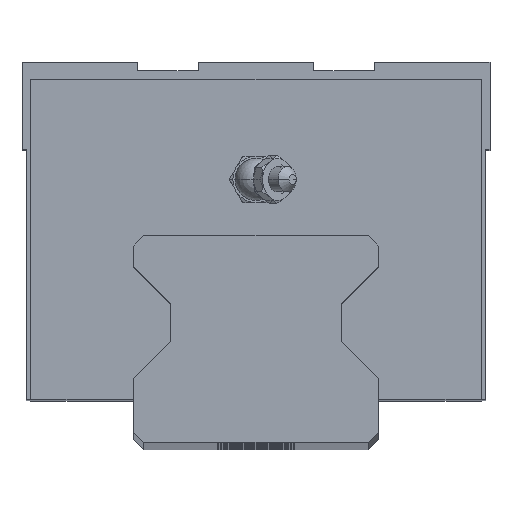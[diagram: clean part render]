
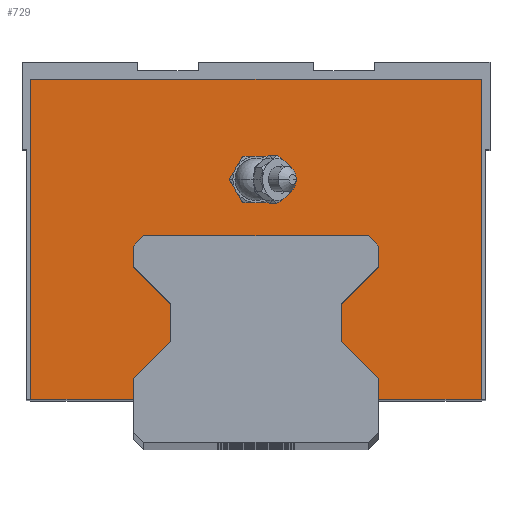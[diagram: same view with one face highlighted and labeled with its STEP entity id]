
A CAD part, top view. The second image highlights one B-rep face of the part: STEP entity #729.
In plain terms, the highlighted planar face has unit normal (0, 0, 1).
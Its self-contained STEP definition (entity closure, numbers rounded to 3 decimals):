
#729=ADVANCED_FACE('',(#1559,#1560),#1561,.T.);
#1559=FACE_BOUND('',#2491,.T.);
#1560=FACE_OUTER_BOUND('',#2492,.T.);
#1561=PLANE('',#2493);
#2491=EDGE_LOOP('',(#4496,#4497));
#2492=EDGE_LOOP('',(#4498,#4499,#4500,#4501,#4502,#4503,#4504,#4505,#4506,#4507,#4508,#4509,#4510,#4511,#4512,#4513,#4514,#4515));
#2493=AXIS2_PLACEMENT_3D('',#4516,#4517,#4518);
#4496=ORIENTED_EDGE('',*,*,#5387,.T.);
#4497=ORIENTED_EDGE('',*,*,#5870,.T.);
#4498=ORIENTED_EDGE('',*,*,#5858,.F.);
#4499=ORIENTED_EDGE('',*,*,#6022,.F.);
#4500=ORIENTED_EDGE('',*,*,#5913,.F.);
#4501=ORIENTED_EDGE('',*,*,#5688,.F.);
#4502=ORIENTED_EDGE('',*,*,#5891,.F.);
#4503=ORIENTED_EDGE('',*,*,#6121,.F.);
#4504=ORIENTED_EDGE('',*,*,#6002,.F.);
#4505=ORIENTED_EDGE('',*,*,#6122,.F.);
#4506=ORIENTED_EDGE('',*,*,#5614,.F.);
#4507=ORIENTED_EDGE('',*,*,#5318,.F.);
#4508=ORIENTED_EDGE('',*,*,#6123,.F.);
#4509=ORIENTED_EDGE('',*,*,#5665,.F.);
#4510=ORIENTED_EDGE('',*,*,#5658,.F.);
#4511=ORIENTED_EDGE('',*,*,#5367,.F.);
#4512=ORIENTED_EDGE('',*,*,#6124,.F.);
#4513=ORIENTED_EDGE('',*,*,#5906,.F.);
#4514=ORIENTED_EDGE('',*,*,#6125,.F.);
#4515=ORIENTED_EDGE('',*,*,#5608,.F.);
#4516=CARTESIAN_POINT('',(0.,38.278,-34.));
#4517=DIRECTION('',(0.,0.,1.0));
#4518=DIRECTION('',(1.0,0.0,0.));
#5318=EDGE_CURVE('',#6314,#6317,#6318,.T.);
#5367=EDGE_CURVE('',#6402,#6405,#6406,.T.);
#5387=EDGE_CURVE('',#6435,#6439,#6441,.T.);
#5608=EDGE_CURVE('',#6814,#6817,#6818,.T.);
#5614=EDGE_CURVE('',#6317,#6825,#6826,.T.);
#5658=EDGE_CURVE('',#6405,#6893,#6894,.T.);
#5665=EDGE_CURVE('',#6893,#6903,#6904,.T.);
#5688=EDGE_CURVE('',#6934,#6936,#6937,.T.);
#5858=EDGE_CURVE('',#7194,#6814,#7197,.T.);
#5870=EDGE_CURVE('',#6439,#6435,#7213,.T.);
#5891=EDGE_CURVE('',#7239,#6934,#7241,.T.);
#5906=EDGE_CURVE('',#7259,#7262,#7263,.T.);
#5913=EDGE_CURVE('',#6936,#7272,#7273,.T.);
#6002=EDGE_CURVE('',#7394,#7396,#7397,.T.);
#6022=EDGE_CURVE('',#7272,#7194,#7426,.T.);
#6121=EDGE_CURVE('',#7396,#7239,#7545,.T.);
#6122=EDGE_CURVE('',#6825,#7394,#7546,.T.);
#6123=EDGE_CURVE('',#6903,#6314,#7547,.T.);
#6124=EDGE_CURVE('',#7262,#6402,#7548,.T.);
#6125=EDGE_CURVE('',#6817,#7259,#7549,.T.);
#6314=VERTEX_POINT('',#7761);
#6317=VERTEX_POINT('',#7765);
#6318=LINE('',#7766,#7767);
#6402=VERTEX_POINT('',#7895);
#6405=VERTEX_POINT('',#7899);
#6406=LINE('',#7900,#7901);
#6435=VERTEX_POINT('',#7976);
#6439=VERTEX_POINT('',#7981);
#6441=CIRCLE('',#7984,3.87);
#6814=VERTEX_POINT('',#8532);
#6817=VERTEX_POINT('',#8536);
#6818=LINE('',#8537,#8538);
#6825=VERTEX_POINT('',#8547);
#6826=LINE('',#8548,#8549);
#6893=VERTEX_POINT('',#8718);
#6894=LINE('',#8719,#8720);
#6903=VERTEX_POINT('',#8732);
#6904=LINE('',#8733,#8734);
#6934=VERTEX_POINT('',#8782);
#6936=VERTEX_POINT('',#8785);
#6937=LINE('',#8786,#8787);
#7194=VERTEX_POINT('',#9201);
#7197=LINE('',#9205,#9206);
#7213=CIRCLE('',#9228,3.87);
#7239=VERTEX_POINT('',#9260);
#7241=LINE('',#9263,#9264);
#7259=VERTEX_POINT('',#9323);
#7262=VERTEX_POINT('',#9327);
#7263=LINE('',#9328,#9329);
#7272=VERTEX_POINT('',#9341);
#7273=LINE('',#9342,#9343);
#7394=VERTEX_POINT('',#9514);
#7396=VERTEX_POINT('',#9517);
#7397=LINE('',#9518,#9519);
#7426=LINE('',#9560,#9561);
#7545=LINE('',#9745,#9746);
#7546=LINE('',#9747,#9748);
#7547=LINE('',#9749,#9750);
#7548=LINE('',#9751,#9752);
#7549=LINE('',#9753,#9754);
#7761=CARTESIAN_POINT('',(-15.667,25.467,-34.));
#7765=CARTESIAN_POINT('',(-15.667,18.633,-34.));
#7766=CARTESIAN_POINT('',(-15.667,25.467,-34.0));
#7767=VECTOR('',#10080,1000.0);
#7895=CARTESIAN_POINT('',(20.6,38.0,-34.));
#7899=CARTESIAN_POINT('',(-20.6,38.0,-34.));
#7900=CARTESIAN_POINT('',(20.6,38.0,-34.0));
#7901=VECTOR('',#10139,1000.0);
#7976=CARTESIAN_POINT('',(3.87,48.4,-34.0));
#7981=CARTESIAN_POINT('',(-3.87,48.4,-34.));
#7984=AXIS2_PLACEMENT_3D('',#10161,#10162,#10163);
#8532=CARTESIAN_POINT('',(15.667,18.633,-34.));
#8536=CARTESIAN_POINT('',(15.667,25.467,-34.));
#8537=CARTESIAN_POINT('',(15.667,18.633,-34.0));
#8538=VECTOR('',#10488,1000.0);
#8547=CARTESIAN_POINT('',(-22.5,11.8,-34.));
#8548=CARTESIAN_POINT('',(-15.667,18.633,-34.0));
#8549=VECTOR('',#10494,1000.0);
#8718=CARTESIAN_POINT('',(-22.5,36.1,-34.));
#8719=CARTESIAN_POINT('',(-20.6,38.0,-34.0));
#8720=VECTOR('',#10539,1000.0);
#8732=CARTESIAN_POINT('',(-22.5,32.3,-34.));
#8733=CARTESIAN_POINT('',(-22.5,36.1,-34.0));
#8734=VECTOR('',#10546,1000.0);
#8782=CARTESIAN_POINT('',(41.4,66.8,-34.));
#8785=CARTESIAN_POINT('',(41.4,8.0,-34.));
#8786=CARTESIAN_POINT('',(41.4,66.8,-34.0));
#8787=VECTOR('',#10576,1000.0);
#9201=CARTESIAN_POINT('',(22.5,11.8,-34.));
#9205=CARTESIAN_POINT('',(22.5,11.8,-34.0));
#9206=VECTOR('',#10784,1000.0);
#9228=AXIS2_PLACEMENT_3D('',#10794,#10795,#10796);
#9260=CARTESIAN_POINT('',(-41.4,66.8,-34.));
#9263=CARTESIAN_POINT('',(-41.4,66.8,-34.0));
#9264=VECTOR('',#10825,1000.0);
#9323=CARTESIAN_POINT('',(22.5,32.3,-34.));
#9327=CARTESIAN_POINT('',(22.5,36.1,-34.));
#9328=CARTESIAN_POINT('',(22.5,32.3,-34.0));
#9329=VECTOR('',#10836,1000.0);
#9341=CARTESIAN_POINT('',(22.5,8.0,-34.));
#9342=CARTESIAN_POINT('',(41.4,8.0,-34.0));
#9343=VECTOR('',#10843,1000.0);
#9514=CARTESIAN_POINT('',(-22.5,8.0,-34.));
#9517=CARTESIAN_POINT('',(-41.4,8.0,-34.));
#9518=CARTESIAN_POINT('',(-41.4,8.0,-34.0));
#9519=VECTOR('',#10959,1000.0);
#9560=CARTESIAN_POINT('',(22.5,8.0,-34.0));
#9561=VECTOR('',#10978,1000.0);
#9745=CARTESIAN_POINT('',(-41.4,8.0,-34.0));
#9746=VECTOR('',#11094,1000.0);
#9747=CARTESIAN_POINT('',(-22.5,11.8,-34.0));
#9748=VECTOR('',#11095,1000.0);
#9749=CARTESIAN_POINT('',(-22.5,32.3,-34.0));
#9750=VECTOR('',#11096,1000.0);
#9751=CARTESIAN_POINT('',(22.5,36.1,-34.0));
#9752=VECTOR('',#11097,1000.0);
#9753=CARTESIAN_POINT('',(15.667,25.467,-34.0));
#9754=VECTOR('',#11098,1000.0);
#10080=DIRECTION('',(0.0,-1.0,0.0));
#10139=DIRECTION('',(-1.0,0.0,0.0));
#10161=CARTESIAN_POINT('',(0.0,48.4,-34.));
#10162=DIRECTION('',(0.,0.,-1.0));
#10163=DIRECTION('',(1.0,0.,0.));
#10488=DIRECTION('',(0.0,1.0,0.0));
#10494=DIRECTION('',(-0.707,-0.707,0.0));
#10539=DIRECTION('',(-0.707,-0.707,0.0));
#10546=DIRECTION('',(0.0,-1.0,0.0));
#10576=DIRECTION('',(0.0,-1.0,0.0));
#10784=DIRECTION('',(-0.707,0.707,0.0));
#10794=CARTESIAN_POINT('',(0.0,48.4,-34.));
#10795=DIRECTION('',(0.,0.,-1.0));
#10796=DIRECTION('',(1.0,0.,0.));
#10825=DIRECTION('',(1.0,0.0,0.0));
#10836=DIRECTION('',(0.0,1.0,0.0));
#10843=DIRECTION('',(-1.0,0.0,0.0));
#10959=DIRECTION('',(-1.0,-0.0,-0.0));
#10978=DIRECTION('',(0.0,1.0,0.0));
#11094=DIRECTION('',(0.0,1.0,0.0));
#11095=DIRECTION('',(0.0,-1.0,0.0));
#11096=DIRECTION('',(0.707,-0.707,0.0));
#11097=DIRECTION('',(-0.707,0.707,0.0));
#11098=DIRECTION('',(0.707,0.707,0.0));
